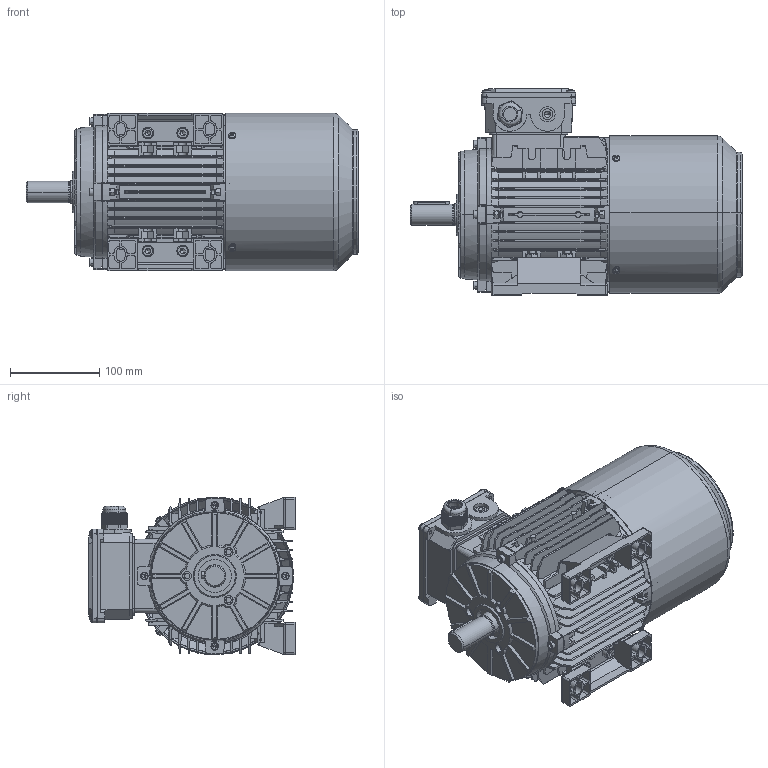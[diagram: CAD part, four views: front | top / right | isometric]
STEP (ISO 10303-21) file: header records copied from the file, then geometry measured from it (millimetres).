
FILE_DESCRIPTION (( 'STEP AP203' ), '1' );
FILE_NAME ('TB90S B3（风罩不带手柄孔）.STEP', '2021-10-22T02:17:09', ( '' ), ( '' ), 'SwSTEP 2.0', 'SolidWorks 2014', '' );
FILE_SCHEMA (( 'CONFIG_CONTROL_DESIGN' ));
Length unit declared in the file: millimetre
Products named in the file (19): 陔諉盄碟裔80-100; T90S菁褐; Plain parallel keys_GB_CONNECTING_PIECE_KEYS_CSK 8X40; 90-4怢宒瑞珔傍杶; TB90綴裔; Cross recessed thread forming screws GB_GB_CROSS_SCREWS_TYPE138 M5X12-N; Hexagon nuts grade C GB_GB_FASTENER_NUT_SNC1 M8-N; 陔諉盄碟釱80-100; TB90S蛌粣; Hexagon nuts grade C GB_GB_FASTENER_NUT_SNC1 M5-N; TB90S B3（风罩不带手柄孔）; 80-100堤盄蹟杶; TA90ヶ裔1; T90S儂褲; Hexagon socket head cap screws GB_GB_FASTENER_SCREWS_HSHCS M8X25-N; 90怢宒瑞珔; TB90瑞欶ㄗ祥湍忒梟謂ㄘ; Hexagon socket head cap screws GB_GB_FASTENER_SCREWS_HSHCS M5X25-N; Cross recessed thread forming screws GB_GB_CROSS_SCREWS_TYPE138 M4X12-N
Assembly tree (46 placements, depth 2):
  TB90S B3（风罩不带手柄孔）
    T90S儂褲
    T90S菁褐  x2
    TB90S蛌粣
    TB90瑞欶ㄗ祥湍忒梟謂ㄘ
    TB90綴裔
    80-100堤盄蹟杶
    Cross recessed thread forming screws GB_GB_CROSS_SCREWS_TYPE138 M4X12-N  x4
    Hexagon nuts grade C GB_GB_FASTENER_NUT_SNC1 M8-N  x4
    Hexagon socket head cap screws GB_GB_FASTENER_SCREWS_HSHCS M8X25-N  x4
    Plain parallel keys_GB_CONNECTING_PIECE_KEYS_CSK 8X40
    Hexagon nuts grade C GB_GB_FASTENER_NUT_SNC1 M5-N  x8
    Hexagon socket head cap screws GB_GB_FASTENER_SCREWS_HSHCS M5X25-N  x8
    Cross recessed thread forming screws GB_GB_CROSS_SCREWS_TYPE138 M5X12-N  x4
    TA90ヶ裔1
    陔諉盄碟裔80-100
    陔諉盄碟釱80-100
    90怢宒瑞珔
    90-4怢宒瑞珔傍杶  x2
Bounding box: 372 x 231 x 176.54 mm (x, y, z)
Volume: 1353070.3 mm3; surface area: 895879.8 mm2
Topology: 46 solids, 46 shells, 4054 faces, 10882 edges, 7011 vertices
Faces by surface type: plane 2507, cylinder 1063, cone 261, torus 177, sphere 34, bspline 12
Entity records: 113102 total; most frequent: CARTESIAN_POINT 26158, ORIENTED_EDGE 18302, DIRECTION 16658, EDGE_CURVE 9151, VERTEX_POINT 5937, LINE 5834, VECTOR 5834, AXIS2_PLACEMENT_3D 5412
